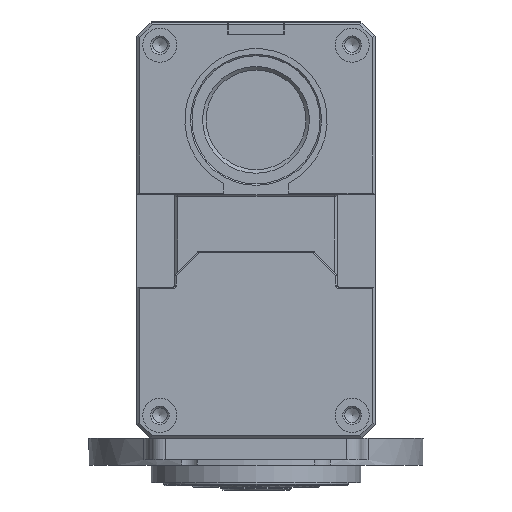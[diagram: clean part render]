
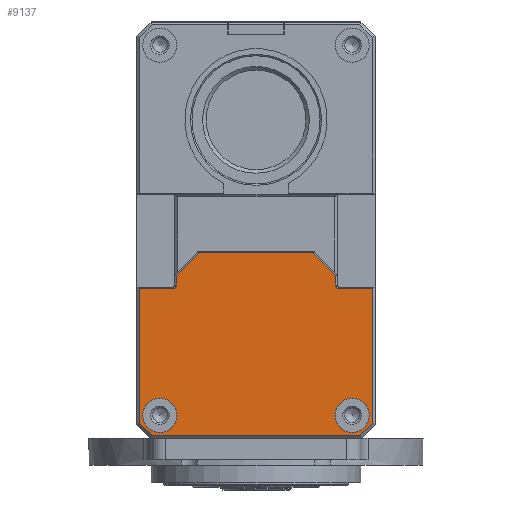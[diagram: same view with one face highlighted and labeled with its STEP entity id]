
A CAD part, front view. The second image highlights one B-rep face of the part: STEP entity #9137.
In plain terms, the highlighted planar face has unit normal (0, -1, 0) as drawn and (0, 0, -1) by its records, which use the part's own axes.
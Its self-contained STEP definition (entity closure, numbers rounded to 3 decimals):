
#386=PLANE('',#9928);
#702=FACE_BOUND('',#1770,.T.);
#703=FACE_BOUND('',#1771,.T.);
#1043=FACE_OUTER_BOUND('',#1769,.T.);
#1769=EDGE_LOOP('',(#6990,#6991,#6992,#6993,#6994,#6995,#6996,#6997,#6998,
#6999,#7000,#7001,#7002,#7003,#7004,#7005,#7006,#7007));
#1770=EDGE_LOOP('',(#7008));
#1771=EDGE_LOOP('',(#7009));
#2449=CIRCLE('',#9886,0.5);
#2452=CIRCLE('',#9899,0.5);
#2462=CIRCLE('',#9926,0.1);
#2464=CIRCLE('',#9929,0.1);
#2465=CIRCLE('',#9930,0.1);
#2466=CIRCLE('',#9931,0.1);
#2467=CIRCLE('',#9932,2.4);
#2468=CIRCLE('',#9933,2.4);
#2959=LINE('',#14249,#3574);
#2960=LINE('',#14258,#3575);
#2961=LINE('',#14261,#3576);
#2963=LINE('',#14265,#3578);
#2965=LINE('',#14269,#3580);
#2967=LINE('',#14273,#3582);
#2969=LINE('',#14278,#3584);
#2970=LINE('',#14281,#3585);
#2971=LINE('',#14289,#3586);
#2987=LINE('',#14357,#3602);
#2988=LINE('',#14360,#3603);
#2989=LINE('',#14364,#3604);
#3574=VECTOR('',#11543,1.276);
#3575=VECTOR('',#11556,4.65);
#3576=VECTOR('',#11559,18.884);
#3578=VECTOR('',#11563,2.497);
#3580=VECTOR('',#11567,29.169);
#3582=VECTOR('',#11571,2.497);
#3584=VECTOR('',#11577,18.884);
#3585=VECTOR('',#11580,4.65);
#3586=VECTOR('',#11591,1.276);
#3602=VECTOR('',#11661,4.418);
#3603=VECTOR('',#11664,4.418);
#3604=VECTOR('',#11667,15.951);
#4284=VERTEX_POINT('',#14246);
#4285=VERTEX_POINT('',#14248);
#4286=VERTEX_POINT('',#14252);
#4287=VERTEX_POINT('',#14256);
#4288=VERTEX_POINT('',#14260);
#4289=VERTEX_POINT('',#14264);
#4290=VERTEX_POINT('',#14268);
#4291=VERTEX_POINT('',#14272);
#4292=VERTEX_POINT('',#14276);
#4293=VERTEX_POINT('',#14280);
#4294=VERTEX_POINT('',#14284);
#4295=VERTEX_POINT('',#14288);
#4309=VERTEX_POINT('',#14351);
#4310=VERTEX_POINT('',#14355);
#4311=VERTEX_POINT('',#14356);
#4312=VERTEX_POINT('',#14359);
#4313=VERTEX_POINT('',#14361);
#4314=VERTEX_POINT('',#14363);
#4315=VERTEX_POINT('',#14366);
#4316=VERTEX_POINT('',#14368);
#5284=EDGE_CURVE('',#4285,#4284,#2959,.T.);
#5286=EDGE_CURVE('',#4286,#4285,#2449,.T.);
#5289=EDGE_CURVE('',#4287,#4286,#2960,.T.);
#5290=EDGE_CURVE('',#4288,#4287,#2961,.T.);
#5292=EDGE_CURVE('',#4289,#4288,#2963,.T.);
#5294=EDGE_CURVE('',#4290,#4289,#2965,.T.);
#5296=EDGE_CURVE('',#4291,#4290,#2967,.T.);
#5299=EDGE_CURVE('',#4292,#4291,#2969,.T.);
#5300=EDGE_CURVE('',#4293,#4292,#2970,.T.);
#5302=EDGE_CURVE('',#4294,#4293,#2452,.T.);
#5304=EDGE_CURVE('',#4295,#4294,#2971,.T.);
#5329=EDGE_CURVE('',#4284,#4309,#2462,.T.);
#5331=EDGE_CURVE('',#4310,#4311,#2987,.T.);
#5332=EDGE_CURVE('',#4311,#4295,#2464,.T.);
#5333=EDGE_CURVE('',#4309,#4312,#2988,.T.);
#5334=EDGE_CURVE('',#4312,#4313,#2465,.T.);
#5335=EDGE_CURVE('',#4313,#4314,#2989,.T.);
#5336=EDGE_CURVE('',#4314,#4310,#2466,.T.);
#5337=EDGE_CURVE('',#4315,#4315,#2467,.T.);
#5338=EDGE_CURVE('',#4316,#4316,#2468,.T.);
#6990=ORIENTED_EDGE('',*,*,#5331,.T.);
#6991=ORIENTED_EDGE('',*,*,#5332,.T.);
#6992=ORIENTED_EDGE('',*,*,#5304,.T.);
#6993=ORIENTED_EDGE('',*,*,#5302,.T.);
#6994=ORIENTED_EDGE('',*,*,#5300,.T.);
#6995=ORIENTED_EDGE('',*,*,#5299,.T.);
#6996=ORIENTED_EDGE('',*,*,#5296,.T.);
#6997=ORIENTED_EDGE('',*,*,#5294,.T.);
#6998=ORIENTED_EDGE('',*,*,#5292,.T.);
#6999=ORIENTED_EDGE('',*,*,#5290,.T.);
#7000=ORIENTED_EDGE('',*,*,#5289,.T.);
#7001=ORIENTED_EDGE('',*,*,#5286,.T.);
#7002=ORIENTED_EDGE('',*,*,#5284,.T.);
#7003=ORIENTED_EDGE('',*,*,#5329,.T.);
#7004=ORIENTED_EDGE('',*,*,#5333,.T.);
#7005=ORIENTED_EDGE('',*,*,#5334,.T.);
#7006=ORIENTED_EDGE('',*,*,#5335,.T.);
#7007=ORIENTED_EDGE('',*,*,#5336,.T.);
#7008=ORIENTED_EDGE('',*,*,#5337,.F.);
#7009=ORIENTED_EDGE('',*,*,#5338,.F.);
#9137=ADVANCED_FACE('',(#1043,#702,#703),#386,.F.);
#9886=AXIS2_PLACEMENT_3D('',#14253,#11548,#11549);
#9899=AXIS2_PLACEMENT_3D('',#14285,#11585,#11586);
#9926=AXIS2_PLACEMENT_3D('',#14352,#11655,#11656);
#9928=AXIS2_PLACEMENT_3D('',#14354,#11659,#11660);
#9929=AXIS2_PLACEMENT_3D('',#14358,#11662,#11663);
#9930=AXIS2_PLACEMENT_3D('',#14362,#11665,#11666);
#9931=AXIS2_PLACEMENT_3D('',#14365,#11668,#11669);
#9932=AXIS2_PLACEMENT_3D('',#14367,#11670,#11671);
#9933=AXIS2_PLACEMENT_3D('',#14369,#11672,#11673);
#11543=DIRECTION('',(0.,1.,0.));
#11548=DIRECTION('center_axis',(0.,0.,1.));
#11549=DIRECTION('ref_axis',(0.,-1.,0.));
#11556=DIRECTION('',(1.,0.,0.));
#11559=DIRECTION('',(0.,1.,0.));
#11563=DIRECTION('',(-0.707,0.707,0.));
#11567=DIRECTION('',(-1.,0.,0.));
#11571=DIRECTION('',(-0.707,-0.707,0.));
#11577=DIRECTION('',(0.,-1.,0.));
#11580=DIRECTION('',(1.,0.,0.));
#11585=DIRECTION('center_axis',(0.,0.,1.));
#11586=DIRECTION('ref_axis',(-1.,0.,0.));
#11591=DIRECTION('',(0.,-1.,0.));
#11655=DIRECTION('center_axis',(0.,0.,-1.));
#11656=DIRECTION('ref_axis',(-1.,0.,0.));
#11659=DIRECTION('center_axis',(0.,0.,1.));
#11660=DIRECTION('ref_axis',(1.,0.,0.));
#11661=DIRECTION('',(0.707,-0.707,0.));
#11662=DIRECTION('center_axis',(0.,0.,-1.));
#11663=DIRECTION('ref_axis',(0.707,0.707,0.));
#11664=DIRECTION('',(0.707,0.707,0.));
#11665=DIRECTION('center_axis',(0.,0.,-1.));
#11666=DIRECTION('ref_axis',(-0.707,0.707,0.));
#11667=DIRECTION('',(1.,0.,0.));
#11668=DIRECTION('center_axis',(0.,0.,-1.));
#11669=DIRECTION('ref_axis',(0.,1.,0.));
#11670=DIRECTION('center_axis',(0.,0.,-1.));
#11671=DIRECTION('ref_axis',(-1.,0.,0.));
#11672=DIRECTION('center_axis',(0.,0.,-1.));
#11673=DIRECTION('ref_axis',(-1.,0.,0.));
#14246=CARTESIAN_POINT('',(-11.2,-21.924,-22.));
#14248=CARTESIAN_POINT('',(-11.2,-23.2,-22.));
#14249=CARTESIAN_POINT('',(-11.2,-23.2,-22.));
#14252=CARTESIAN_POINT('',(-11.7,-23.7,-22.));
#14253=CARTESIAN_POINT('Origin',(-11.7,-23.2,-22.));
#14256=CARTESIAN_POINT('',(-16.35,-23.7,-22.));
#14258=CARTESIAN_POINT('',(-16.35,-23.7,-22.));
#14260=CARTESIAN_POINT('',(-16.35,-42.584,-22.));
#14261=CARTESIAN_POINT('',(-16.35,-42.584,-22.));
#14264=CARTESIAN_POINT('',(-14.584,-44.35,-22.));
#14265=CARTESIAN_POINT('',(-14.584,-44.35,-22.));
#14268=CARTESIAN_POINT('',(14.584,-44.35,-22.));
#14269=CARTESIAN_POINT('',(14.584,-44.35,-22.));
#14272=CARTESIAN_POINT('',(16.35,-42.584,-22.));
#14273=CARTESIAN_POINT('',(16.35,-42.584,-22.));
#14276=CARTESIAN_POINT('',(16.35,-23.7,-22.));
#14278=CARTESIAN_POINT('',(16.35,-23.7,-22.));
#14280=CARTESIAN_POINT('',(11.7,-23.7,-22.));
#14281=CARTESIAN_POINT('',(11.7,-23.7,-22.));
#14284=CARTESIAN_POINT('',(11.2,-23.2,-22.));
#14285=CARTESIAN_POINT('Origin',(11.7,-23.2,-22.));
#14288=CARTESIAN_POINT('',(11.2,-21.924,-22.));
#14289=CARTESIAN_POINT('',(11.2,-21.924,-22.));
#14351=CARTESIAN_POINT('',(-11.171,-21.854,-22.));
#14352=CARTESIAN_POINT('Origin',(-11.1,-21.924,-22.));
#14354=CARTESIAN_POINT('Origin',(0.,0.,-22.));
#14355=CARTESIAN_POINT('',(8.046,-18.729,-22.));
#14356=CARTESIAN_POINT('',(11.171,-21.854,-22.));
#14357=CARTESIAN_POINT('',(8.046,-18.729,-22.));
#14358=CARTESIAN_POINT('Origin',(11.1,-21.924,-22.));
#14359=CARTESIAN_POINT('',(-8.046,-18.729,-22.));
#14360=CARTESIAN_POINT('',(-11.171,-21.854,-22.));
#14361=CARTESIAN_POINT('',(-7.976,-18.7,-22.));
#14362=CARTESIAN_POINT('Origin',(-7.976,-18.8,-22.));
#14363=CARTESIAN_POINT('',(7.976,-18.7,-22.));
#14364=CARTESIAN_POINT('',(-7.976,-18.7,-22.));
#14365=CARTESIAN_POINT('Origin',(7.976,-18.8,-22.));
#14366=CARTESIAN_POINT('',(-15.9,-41.5,-22.));
#14367=CARTESIAN_POINT('Origin',(-13.5,-41.5,-22.));
#14368=CARTESIAN_POINT('',(11.1,-41.5,-22.));
#14369=CARTESIAN_POINT('Origin',(13.5,-41.5,-22.));
